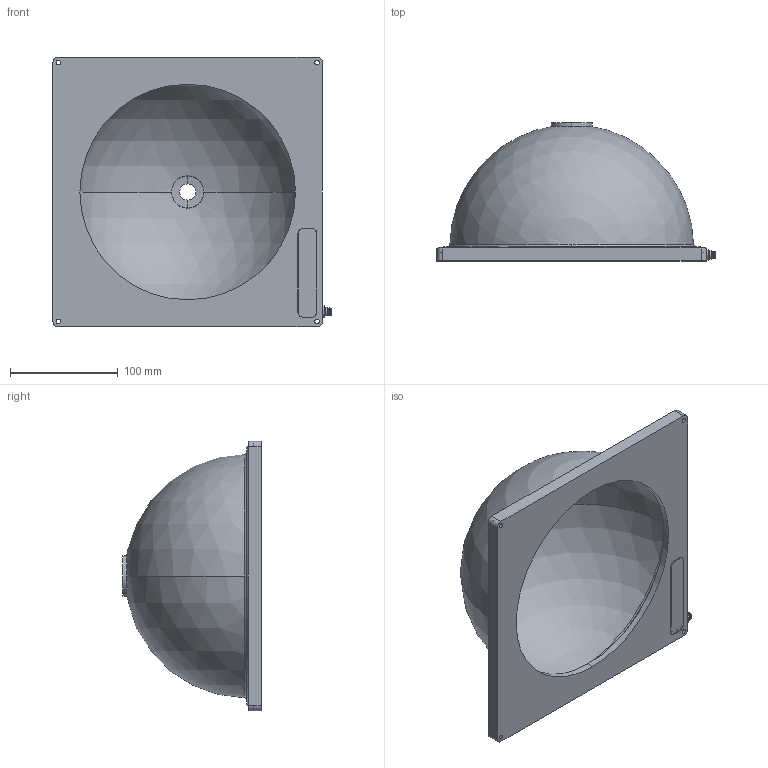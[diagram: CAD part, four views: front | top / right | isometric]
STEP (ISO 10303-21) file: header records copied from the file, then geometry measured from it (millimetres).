
FILE_DESCRIPTION (( 'STEP AP214' ), '1' );
FILE_NAME ('00024.02 Basisbaugruppe SDL-20.STEP', '2020-12-07T12:26:50', ( '' ), ( '' ), 'SwSTEP 2.0', 'SolidWorks 2013', '' );
FILE_SCHEMA (( 'AUTOMOTIVE_DESIGN' ));
Length unit declared in the file: millimetre
Products named in the file (1): 00024.02 Basisbaugruppe SDL-20
Bounding box: 258 x 128.5 x 250 mm (x, y, z)
Volume: 552089.8 mm3; surface area: 268530.9 mm2
Topology: 5 solids, 5 shells, 203 faces, 486 edges, 310 vertices
Faces by surface type: cylinder 97, plane 60, cone 22, sphere 10, bspline 8, torus 6
Entity records: 9063 total; most frequent: CARTESIAN_POINT 1897, DIRECTION 1077, ORIENTED_EDGE 972, EDGE_CURVE 486, AXIS2_PLACEMENT_3D 441, VERTEX_POINT 310, CIRCLE 245, EDGE_LOOP 238
